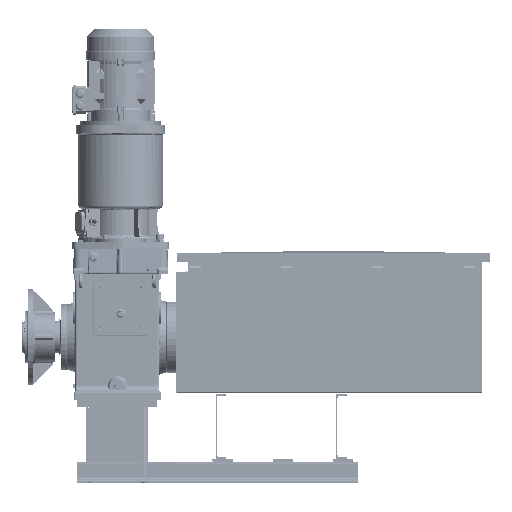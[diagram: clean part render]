
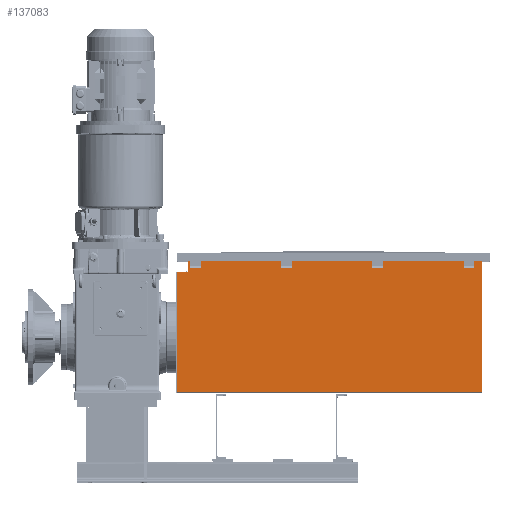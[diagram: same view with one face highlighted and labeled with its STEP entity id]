
A CAD part, top view. The second image highlights one B-rep face of the part: STEP entity #137083.
In plain terms, the highlighted planar face has unit normal (0, 0, 1).
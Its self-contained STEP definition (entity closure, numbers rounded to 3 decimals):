
#3110=PLANE('',#145214);
#15027=FACE_OUTER_BOUND('',#23325,.T.);
#23325=EDGE_LOOP('',(#95142,#95143,#95144,#95145,#95146,#95147,#95148,#95149,
#95150,#95151,#95152,#95153,#95154,#95155,#95156,#95157,#95158,#95159,#95160,
#95161,#95162,#95163));
#33468=LINE('',#197522,#44601);
#33490=LINE('',#197577,#44623);
#33491=LINE('',#197583,#44624);
#33510=LINE('',#197621,#44643);
#33511=LINE('',#197626,#44644);
#33570=LINE('',#197799,#44703);
#33590=LINE('',#197851,#44723);
#33591=LINE('',#197854,#44724);
#33592=LINE('',#197857,#44725);
#33642=LINE('',#197995,#44775);
#33662=LINE('',#198047,#44795);
#33663=LINE('',#198050,#44796);
#33664=LINE('',#198053,#44797);
#33680=LINE('',#198095,#44813);
#33699=LINE('',#198145,#44832);
#33700=LINE('',#198148,#44833);
#33701=LINE('',#198151,#44834);
#34167=LINE('',#199746,#45300);
#34194=LINE('',#199810,#45327);
#34195=LINE('',#199812,#45328);
#34203=LINE('',#199827,#45336);
#34204=LINE('',#199828,#45337);
#44601=VECTOR('',#160604,32.647);
#44623=VECTOR('',#160662,40.);
#44624=VECTOR('',#160669,32.647);
#44643=VECTOR('',#160692,300.);
#44644=VECTOR('',#160699,9.984);
#44703=VECTOR('',#160862,32.647);
#44723=VECTOR('',#160918,40.);
#44724=VECTOR('',#160923,32.647);
#44725=VECTOR('',#160926,300.);
#44775=VECTOR('',#161062,32.647);
#44795=VECTOR('',#161118,40.);
#44796=VECTOR('',#161123,32.647);
#44797=VECTOR('',#161126,300.);
#44813=VECTOR('',#161164,32.647);
#44832=VECTOR('',#161217,40.);
#44833=VECTOR('',#161222,32.647);
#44834=VECTOR('',#161225,28.016);
#45300=VECTOR('',#162629,448.016);
#45327=VECTOR('',#162694,46.032);
#45328=VECTOR('',#162697,40.);
#45336=VECTOR('',#162713,1138.);
#45337=VECTOR('',#162714,494.048);
#57271=VERTEX_POINT('',#197506);
#57278=VERTEX_POINT('',#197520);
#57293=VERTEX_POINT('',#197575);
#57294=VERTEX_POINT('',#197580);
#57312=VERTEX_POINT('',#197620);
#57313=VERTEX_POINT('',#197624);
#57369=VERTEX_POINT('',#197785);
#57375=VERTEX_POINT('',#197797);
#57389=VERTEX_POINT('',#197849);
#57390=VERTEX_POINT('',#197856);
#57429=VERTEX_POINT('',#197981);
#57435=VERTEX_POINT('',#197993);
#57449=VERTEX_POINT('',#198045);
#57450=VERTEX_POINT('',#198052);
#57459=VERTEX_POINT('',#198081);
#57465=VERTEX_POINT('',#198093);
#57479=VERTEX_POINT('',#198143);
#57480=VERTEX_POINT('',#198150);
#57957=VERTEX_POINT('',#199743);
#57958=VERTEX_POINT('',#199745);
#57976=VERTEX_POINT('',#199808);
#57979=VERTEX_POINT('',#199826);
#70941=EDGE_CURVE('',#57271,#57278,#33468,.T.);
#70969=EDGE_CURVE('',#57278,#57293,#33490,.T.);
#70971=EDGE_CURVE('',#57293,#57294,#33491,.T.);
#70990=EDGE_CURVE('',#57312,#57271,#33510,.T.);
#70993=EDGE_CURVE('',#57294,#57313,#33511,.T.);
#71080=EDGE_CURVE('',#57369,#57375,#33570,.T.);
#71106=EDGE_CURVE('',#57375,#57389,#33590,.T.);
#71107=EDGE_CURVE('',#57389,#57312,#33591,.T.);
#71108=EDGE_CURVE('',#57390,#57369,#33592,.T.);
#71178=EDGE_CURVE('',#57429,#57435,#33642,.T.);
#71204=EDGE_CURVE('',#57435,#57449,#33662,.T.);
#71205=EDGE_CURVE('',#57449,#57390,#33663,.T.);
#71206=EDGE_CURVE('',#57450,#57429,#33664,.T.);
#71228=EDGE_CURVE('',#57459,#57465,#33680,.T.);
#71253=EDGE_CURVE('',#57465,#57479,#33699,.T.);
#71254=EDGE_CURVE('',#57479,#57450,#33700,.T.);
#71255=EDGE_CURVE('',#57480,#57459,#33701,.T.);
#71962=EDGE_CURVE('',#57957,#57958,#34167,.T.);
#71996=EDGE_CURVE('',#57313,#57976,#34194,.T.);
#71997=EDGE_CURVE('',#57976,#57958,#34195,.T.);
#72005=EDGE_CURVE('',#57979,#57957,#34203,.T.);
#72006=EDGE_CURVE('',#57480,#57979,#34204,.T.);
#95142=ORIENTED_EDGE('',*,*,#70971,.T.);
#95143=ORIENTED_EDGE('',*,*,#70993,.T.);
#95144=ORIENTED_EDGE('',*,*,#71996,.T.);
#95145=ORIENTED_EDGE('',*,*,#71997,.T.);
#95146=ORIENTED_EDGE('',*,*,#71962,.F.);
#95147=ORIENTED_EDGE('',*,*,#72005,.F.);
#95148=ORIENTED_EDGE('',*,*,#72006,.F.);
#95149=ORIENTED_EDGE('',*,*,#71255,.T.);
#95150=ORIENTED_EDGE('',*,*,#71228,.T.);
#95151=ORIENTED_EDGE('',*,*,#71253,.T.);
#95152=ORIENTED_EDGE('',*,*,#71254,.T.);
#95153=ORIENTED_EDGE('',*,*,#71206,.T.);
#95154=ORIENTED_EDGE('',*,*,#71178,.T.);
#95155=ORIENTED_EDGE('',*,*,#71204,.T.);
#95156=ORIENTED_EDGE('',*,*,#71205,.T.);
#95157=ORIENTED_EDGE('',*,*,#71108,.T.);
#95158=ORIENTED_EDGE('',*,*,#71080,.T.);
#95159=ORIENTED_EDGE('',*,*,#71106,.T.);
#95160=ORIENTED_EDGE('',*,*,#71107,.T.);
#95161=ORIENTED_EDGE('',*,*,#70990,.T.);
#95162=ORIENTED_EDGE('',*,*,#70941,.T.);
#95163=ORIENTED_EDGE('',*,*,#70969,.T.);
#137083=ADVANCED_FACE('',(#15027),#3110,.T.);
#145214=AXIS2_PLACEMENT_3D('',#199825,#162711,#162712);
#160604=DIRECTION('',(0.,-1.,0.));
#160662=DIRECTION('',(-1.,0.,0.));
#160669=DIRECTION('',(0.,1.,0.));
#160692=DIRECTION('',(-1.,0.,0.));
#160699=DIRECTION('',(-1.,0.,0.));
#160862=DIRECTION('',(0.,-1.,0.));
#160918=DIRECTION('',(-1.,0.,0.));
#160923=DIRECTION('',(0.,1.,0.));
#160926=DIRECTION('',(-1.,0.,0.));
#161062=DIRECTION('',(0.,-1.,0.));
#161118=DIRECTION('',(-1.,0.,0.));
#161123=DIRECTION('',(0.,1.,0.));
#161126=DIRECTION('',(-1.,0.,0.));
#161164=DIRECTION('',(0.,-1.,0.));
#161217=DIRECTION('',(-1.,0.,0.));
#161222=DIRECTION('',(0.,1.,0.));
#161225=DIRECTION('',(-1.,0.,0.));
#162629=DIRECTION('',(0.,1.,0.));
#162694=DIRECTION('',(0.,-1.,0.));
#162697=DIRECTION('',(-1.,0.,0.));
#162711=DIRECTION('center_axis',(0.,0.,
1.));
#162712=DIRECTION('ref_axis',(0.,1.,0.));
#162713=DIRECTION('',(-1.,0.,0.));
#162714=DIRECTION('',(0.,-1.,0.));
#197506=CARTESIAN_POINT('',(352.493,229.38,105.519));
#197520=CARTESIAN_POINT('',(352.493,196.733,105.519));
#197522=CARTESIAN_POINT('',(352.493,95.978,105.519));
#197575=CARTESIAN_POINT('',(312.493,196.733,105.519));
#197577=CARTESIAN_POINT('',(582.001,196.733,105.519));
#197580=CARTESIAN_POINT('',(312.493,229.38,105.519));
#197583=CARTESIAN_POINT('',(312.493,95.978,105.519));
#197620=CARTESIAN_POINT('',(652.493,229.38,105.519));
#197621=CARTESIAN_POINT('',(1116.01,229.38,105.519));
#197624=CARTESIAN_POINT('',(302.51,229.38,105.519));
#197626=CARTESIAN_POINT('',(1116.01,229.38,105.519));
#197785=CARTESIAN_POINT('',(692.493,229.38,105.519));
#197797=CARTESIAN_POINT('',(692.493,196.733,105.519));
#197799=CARTESIAN_POINT('',(692.493,95.978,105.519));
#197849=CARTESIAN_POINT('',(652.493,196.733,105.519));
#197851=CARTESIAN_POINT('',(752.001,196.733,105.519));
#197854=CARTESIAN_POINT('',(652.493,95.978,105.519));
#197856=CARTESIAN_POINT('',(992.493,229.38,105.519));
#197857=CARTESIAN_POINT('',(1116.01,229.38,105.519));
#197981=CARTESIAN_POINT('',(1032.493,229.38,105.519));
#197993=CARTESIAN_POINT('',(1032.493,196.733,105.519));
#197995=CARTESIAN_POINT('',(1032.493,95.978,105.519));
#198045=CARTESIAN_POINT('',(992.493,196.733,105.519));
#198047=CARTESIAN_POINT('',(922.001,196.733,105.519));
#198050=CARTESIAN_POINT('',(992.493,95.978,105.519));
#198052=CARTESIAN_POINT('',(1332.493,229.38,105.519));
#198053=CARTESIAN_POINT('',(1116.01,229.38,105.519));
#198081=CARTESIAN_POINT('',(1372.493,229.38,105.519));
#198093=CARTESIAN_POINT('',(1372.493,196.733,105.519));
#198095=CARTESIAN_POINT('',(1372.493,95.978,105.519));
#198143=CARTESIAN_POINT('',(1332.493,196.733,105.519));
#198145=CARTESIAN_POINT('',(1092.001,196.733,105.519));
#198148=CARTESIAN_POINT('',(1332.493,95.978,105.519));
#198150=CARTESIAN_POINT('',(1400.51,229.38,105.519));
#198151=CARTESIAN_POINT('',(1116.01,229.38,105.519));
#199743=CARTESIAN_POINT('',(262.51,-264.668,105.519));
#199745=CARTESIAN_POINT('',(262.51,183.348,105.519));
#199746=CARTESIAN_POINT('',(262.51,-266.652,105.519));
#199808=CARTESIAN_POINT('',(302.51,183.348,105.519));
#199810=CARTESIAN_POINT('',(302.51,108.348,105.519));
#199812=CARTESIAN_POINT('',(567.01,183.348,105.519));
#199825=CARTESIAN_POINT('Origin',(831.51,-16.652,105.519));
#199826=CARTESIAN_POINT('',(1400.51,-264.668,105.519));
#199827=CARTESIAN_POINT('',(262.51,-264.668,105.519));
#199828=CARTESIAN_POINT('',(1400.51,233.348,105.519));
